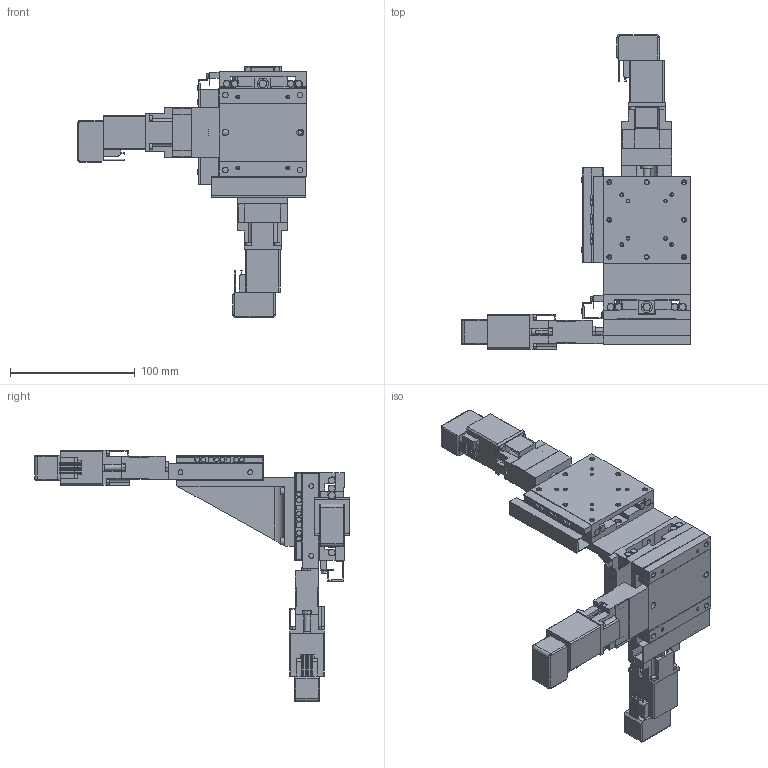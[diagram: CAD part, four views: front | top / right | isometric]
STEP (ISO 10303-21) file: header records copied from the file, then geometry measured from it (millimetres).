
FILE_DESCRIPTION(('STEP AP203'),'1');
FILE_NAME('C:/3D-Trans/3D_PMZG715T-L□-ZA+240129.step','2024-03-14T08:47:11',(' '),(' '),'Spatial InterOp 3D',' ',' ');
FILE_SCHEMA(('CONFIG_CONTROL_DESIGN'));
Length unit declared in the file: millimetre
Products named in the file (19): 1; 2; 3; 4; 5; 6; 7; 8; 9; 10; 11; 12; 13; 14; 15; 16; 17; 18; 19
Bounding box: 183.5 x 252.5 x 201.5 mm (x, y, z)
Volume: 523125 mm3; surface area: 209825.5 mm2
Topology: 19 solids, 19 shells, 1865 faces, 4735 edges, 2943 vertices
Faces by surface type: plane 914, cylinder 655, cone 284, torus 12
Entity records: 57220 total; most frequent: CARTESIAN_POINT 10453, DIRECTION 9965, ORIENTED_EDGE 9302, EDGE_CURVE 4651, AXIS2_PLACEMENT_3D 3511, VERTEX_POINT 2943, LINE 2943, VECTOR 2943
